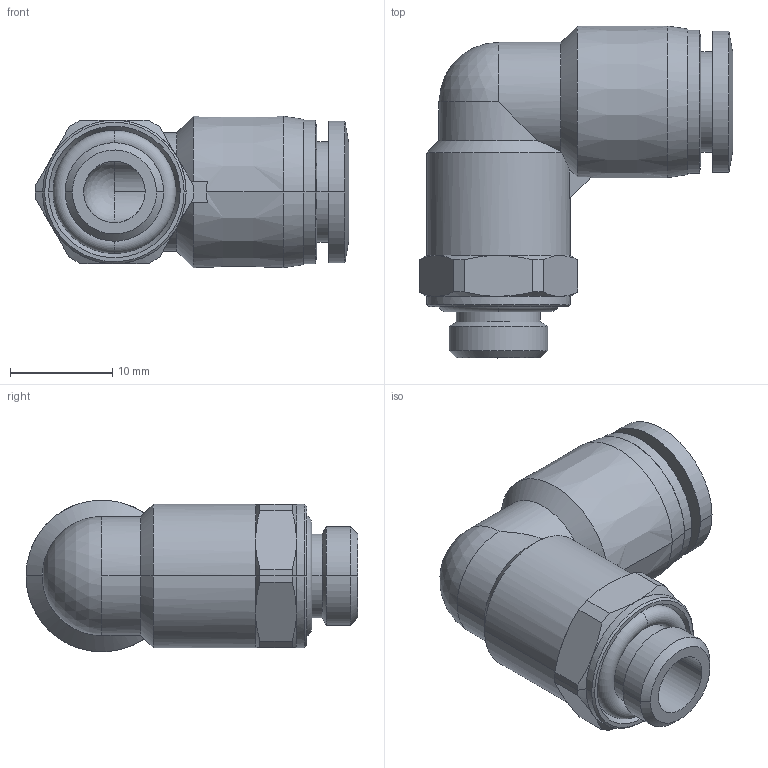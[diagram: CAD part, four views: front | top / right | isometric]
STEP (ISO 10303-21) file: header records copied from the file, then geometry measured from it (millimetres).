
FILE_DESCRIPTION (( 'STEP AP203' ), '1' );
FILE_NAME ('FL08-01.STEP', '2020-04-28T13:42:06', ( '' ), ( '' ), 'SwSTEP 2.0', 'SolidWorks 2019', '' );
FILE_SCHEMA (( 'CONFIG_CONTROL_DESIGN' ));
Length unit declared in the file: millimetre
Products named in the file (1): FL08-01
Bounding box: 30.65 x 32.4 x 14.78 mm (x, y, z)
Surface area: 3659.7 mm2 (no closed solid volume)
Topology: 0 solids, 4 shells, 93 faces, 228 edges, 142 vertices
Faces by surface type: cone 34, cylinder 33, plane 18, torus 4, bspline 2, sphere 2
Entity records: 4491 total; most frequent: CARTESIAN_POINT 2627, ORIENTED_EDGE 432, DIRECTION 237, EDGE_CURVE 224, B_SPLINE_CURVE_WITH_KNOTS 169, VERTEX_POINT 140, EDGE_LOOP 102, AXIS2_PLACEMENT_3D 96
